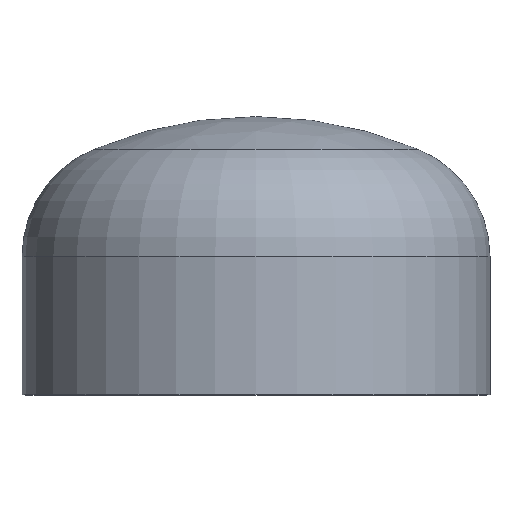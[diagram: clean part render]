
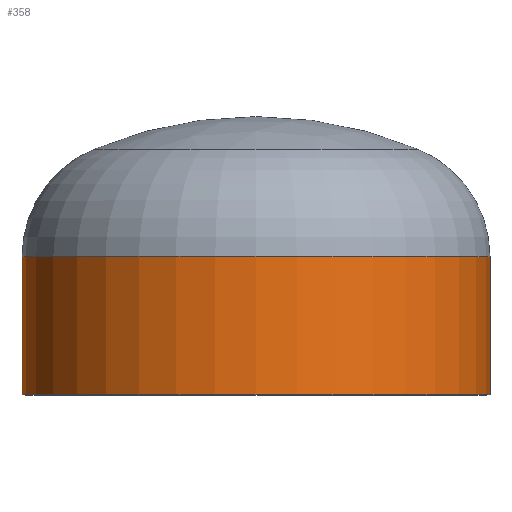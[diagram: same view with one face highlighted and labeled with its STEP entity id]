
A CAD part, top view. The second image highlights one B-rep face of the part: STEP entity #358.
In plain terms, the highlighted cylindrical face has radius 203.2 mm (diameter 406.4 mm), a partial arc.
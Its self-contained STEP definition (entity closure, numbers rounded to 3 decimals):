
#11 = AXIS2_PLACEMENT_3D ( 'NONE', #99, #279, #394 ) ;
#12 = ORIENTED_EDGE ( 'NONE', *, *, #236, .F. ) ;
#14 = VERTEX_POINT ( 'NONE', #283 ) ;
#15 = VECTOR ( 'NONE', #97, 1000. ) ;
#28 = AXIS2_PLACEMENT_3D ( 'NONE', #132, #152, #84 ) ;
#29 = ORIENTED_EDGE ( 'NONE', *, *, #405, .F. ) ;
#45 = VERTEX_POINT ( 'NONE', #351 ) ;
#84 = DIRECTION ( 'NONE',  ( 1., 0., 0. ) ) ;
#97 = DIRECTION ( 'NONE',  ( 0., -1., 0. ) ) ;
#99 = CARTESIAN_POINT ( 'NONE',  ( 0., 120., 0. ) ) ;
#101 = VERTEX_POINT ( 'NONE', #215 ) ;
#106 = CARTESIAN_POINT ( 'NONE',  ( 0., 0., 0. ) ) ;
#107 = DIRECTION ( 'NONE',  ( 0., -1., 0. ) ) ;
#122 = ORIENTED_EDGE ( 'NONE', *, *, #230, .T. ) ;
#129 = ORIENTED_EDGE ( 'NONE', *, *, #381, .T. ) ;
#132 = CARTESIAN_POINT ( 'NONE',  ( 0., 0., 0. ) ) ;
#152 = DIRECTION ( 'NONE',  ( 0., -1., 0. ) ) ;
#167 = CARTESIAN_POINT ( 'NONE',  ( -203.2, 0., 0. ) ) ;
#184 = VERTEX_POINT ( 'NONE', #315 ) ;
#215 = CARTESIAN_POINT ( 'NONE',  ( 203.2, 0., 0. ) ) ;
#221 = AXIS2_PLACEMENT_3D ( 'NONE', #106, #107, #253 ) ;
#230 = EDGE_CURVE ( 'NONE', #14, #45, #368, .T. ) ;
#236 = EDGE_CURVE ( 'NONE', #184, #101, #301, .T. ) ;
#253 = DIRECTION ( 'NONE',  ( 1., 0., 0. ) ) ;
#263 = CYLINDRICAL_SURFACE ( 'NONE', #28, 203.2 ) ;
#268 = EDGE_LOOP ( 'NONE', ( #129, #122, #29, #12 ) ) ;
#273 = FACE_OUTER_BOUND ( 'NONE', #268, .T. ) ;
#279 = DIRECTION ( 'NONE',  ( 0., -1., 0. ) ) ;
#283 = CARTESIAN_POINT ( 'NONE',  ( -203.2, 120., 0. ) ) ;
#294 = VECTOR ( 'NONE', #306, 1000. ) ;
#301 = LINE ( 'NONE', #346, #294 ) ;
#306 = DIRECTION ( 'NONE',  ( 0., -1., 0. ) ) ;
#311 = CIRCLE ( 'NONE', #11, 203.2 ) ;
#315 = CARTESIAN_POINT ( 'NONE',  ( 203.2, 120., 0. ) ) ;
#346 = CARTESIAN_POINT ( 'NONE',  ( 203.2, 0., 0. ) ) ;
#351 = CARTESIAN_POINT ( 'NONE',  ( -203.2, 0., 0. ) ) ;
#358 = ADVANCED_FACE ( 'NONE', ( #273 ), #263, .T. ) ;
#363 = CIRCLE ( 'NONE', #221, 203.2 ) ;
#368 = LINE ( 'NONE', #167, #15 ) ;
#381 = EDGE_CURVE ( 'NONE', #184, #14, #311, .T. ) ;
#394 = DIRECTION ( 'NONE',  ( 1., 0., 0. ) ) ;
#405 = EDGE_CURVE ( 'NONE', #101, #45, #363, .T. ) ;
